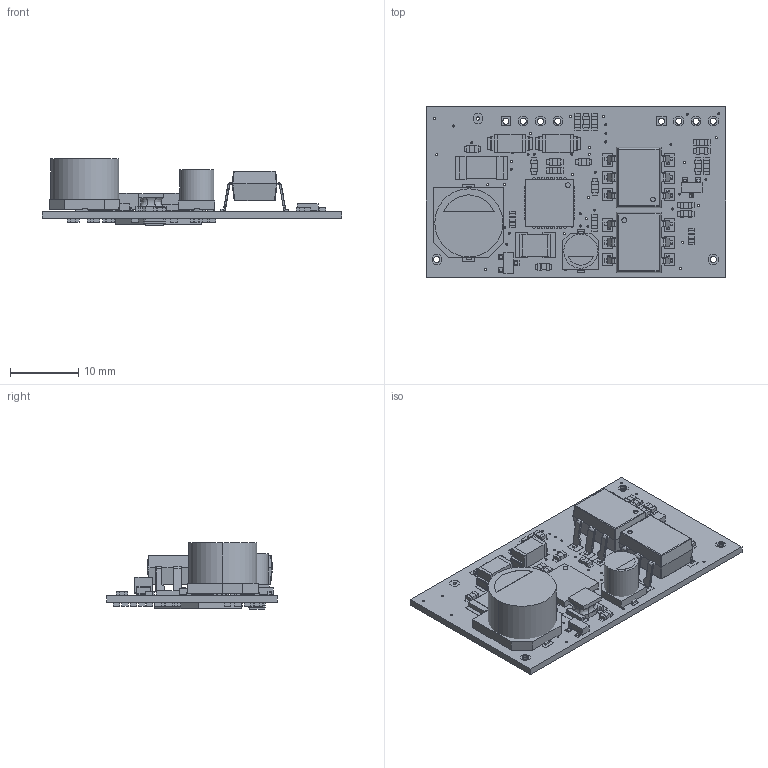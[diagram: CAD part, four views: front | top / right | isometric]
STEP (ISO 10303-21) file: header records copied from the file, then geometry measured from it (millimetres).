
FILE_DESCRIPTION (( 'STEP AP214' ), '1' );
FILE_NAME ('KNX_BAOS_Module_830_1_secure', '', ( '' ), ( '' ), 'STEP 3.0', 'TARGET 3001!', '' );
FILE_SCHEMA (( 'AUTOMOTIVE_DESIGN' ));
Length unit declared in the file: millimetre
Products named in the file (191): KNX_BAOS_Module_830_1_secure; Board_assembly; Board; PadsAndTracks_assembly; Copper_GND_assembly; Copper_GND; Copper_V20_assembly; Copper_V20; Copper_ADC-KNX_assembly; Copper_ADC-KNX; Copper_VCC_assembly; Copper_VCC; Copper_CLK_126Hz_assembly; Copper_CLK_126Hz; Copper_Elmos_Rx_assembly; Copper_Elmos_Rx; Copper_Elmos_Tx_assembly; Copper_Elmos_Tx; Copper_Prog_LED_assembly; Copper_Prog_LED; Copper_Prog_Key_assembly; Copper_Prog_Key; Copper_SWDCLK_assembly; Copper_SWDCLK; Copper_SWDIO_assembly; Copper_SWDIO; Copper_Reset_assembly; Copper_Reset; Copper_DebugTx_assembly; Copper_DebugTx; Copper_湣_VCORE_assembly; Copper_湣_VCORE; Copper_湣_VANA_assembly; Copper_湣_VANA; Copper_VCC-EXT_assembly; Copper_VCC-EXT; Copper_GND-EXT_assembly; Copper_GND-EXT; Copper_SET_VCC_assembly; Copper_SET_VCC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
Assembly tree (191 placements, depth 4):
  KNX_BAOS_Module_830_1_secure
    Board_assembly
      Board
    PadsAndTracks_assembly
      Copper_GND_assembly
        Copper_GND
      Copper_V20_assembly
        Copper_V20
      Copper_ADC-KNX_assembly
        Copper_ADC-KNX
      Copper_VCC_assembly
        Copper_VCC
      Copper_CLK_126Hz_assembly
        Copper_CLK_126Hz
      Copper_Elmos_Rx_assembly
        Copper_Elmos_Rx
      Copper_Elmos_Tx_assembly
        Copper_Elmos_Tx
      Copper_Prog_LED_assembly
        Copper_Prog_LED
      Copper_Prog_Key_assembly
        Copper_Prog_Key
      Copper_SWDCLK_assembly
        Copper_SWDCLK
      Copper_SWDIO_assembly
        Copper_SWDIO
      Copper_Reset_assembly
        Copper_Reset
      Copper_DebugTx_assembly
        Copper_DebugTx
      Copper_湣_VCORE_assembly
        Copper_湣_VCORE
      Copper_湣_VANA_assembly
        Copper_湣_VANA
      Copper_VCC-EXT_assembly
        Copper_VCC-EXT
      Copper_GND-EXT_assembly
        Copper_GND-EXT
      Copper_SET_VCC_assembly
        Copper_SET_VCC
      Copper_Modul_Tx_assembly
        Copper_Modul_Tx
      Copper_Modul_Rx_assembly
        Copper_Modul_Rx
      Copper_XOSC1/PB22_assembly
        Copper_XOSC1/PB22
      Copper_XOSC1/PB23_assembly
        Copper_XOSC1/PB23
      Copper_Prog.LED_assembly
        Copper_Prog.LED
      Copper_Prog.Key_assembly
        Copper_Prog.Key
      Copper_KNX+_assembly
        Copper_KNX+
      Copper_CREG_assembly
        Copper_CREG
      Copper_V33I_assembly
        Copper_V33I
      Copper_BUSP_assembly
        Copper_BUSP
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Bounding box: 44 x 25 x 9.82 mm (x, y, z)
Volume: 2752.5 mm3; surface area: 5612.6 mm2
Topology: 478 solids, 478 shells, 4030 faces, 8958 edges, 5888 vertices
Faces by surface type: plane 3278, cylinder 632, bspline 116, torus 4
Entity records: 91824 total; most frequent: ORIENTED_EDGE 16314, DIRECTION 11583, CARTESIAN_POINT 9801, EDGE_CURVE 8157, LINE 7129, VECTOR 6980, VERTEX_POINT 5392, EDGE_LOOP 3959
